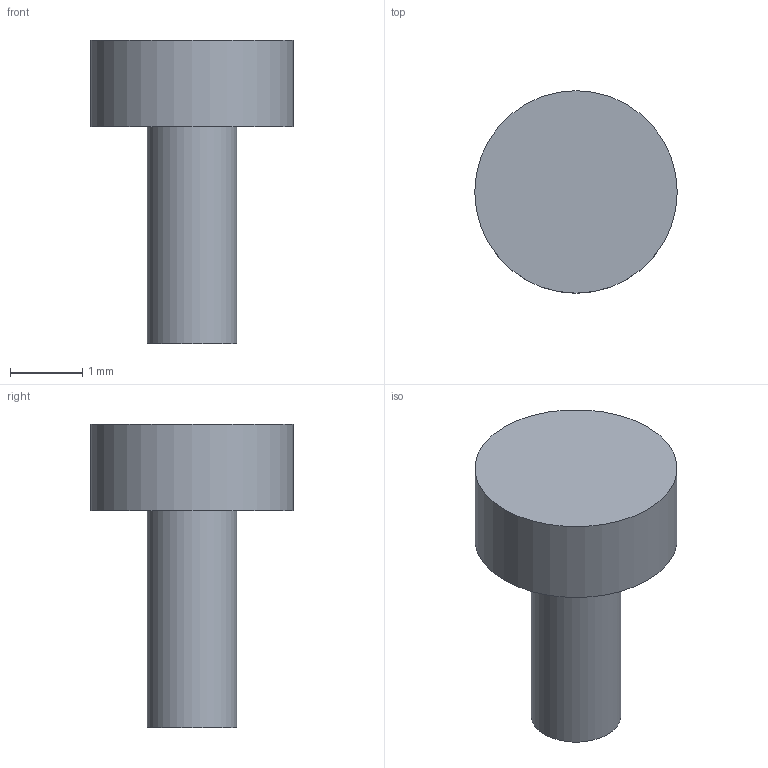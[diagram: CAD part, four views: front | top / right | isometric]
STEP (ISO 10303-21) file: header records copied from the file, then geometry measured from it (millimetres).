
FILE_DESCRIPTION(('Open CASCADE Model'),'2;1');
FILE_NAME('Open CASCADE Shape Model','2026-09-24T17:42:52',('Author'),( 'Open CASCADE'),'Open CASCADE STEP processor 7.8','Open CASCADE 7.8' ,'Unknown');
FILE_SCHEMA(('AUTOMOTIVE_DESIGN { 1 0 10303 214 1 1 1 1 }'));
Length unit declared in the file: millimetre
Products named in the file (1): Open CASCADE STEP translator 7.8 15
Bounding box: 2.8 x 2.8 x 4.2 mm (x, y, z)
Volume: 11 mm3; surface area: 34.6 mm2
Topology: 1 solids, 1 shells, 5 faces, 6 edges, 4 vertices
Faces by surface type: plane 3, cylinder 2
Full cylindrical faces by diameter (mm): 1.24 x1, 2.8 x1
Entity records: 192 total; most frequent: DIRECTION 34, CARTESIAN_POINT 28, ORIENTED_EDGE 12, PCURVE 12, DEFINITIONAL_REPRESENTATION 12, AXIS2_PLACEMENT_3D 10, LINE 10, VECTOR 10
